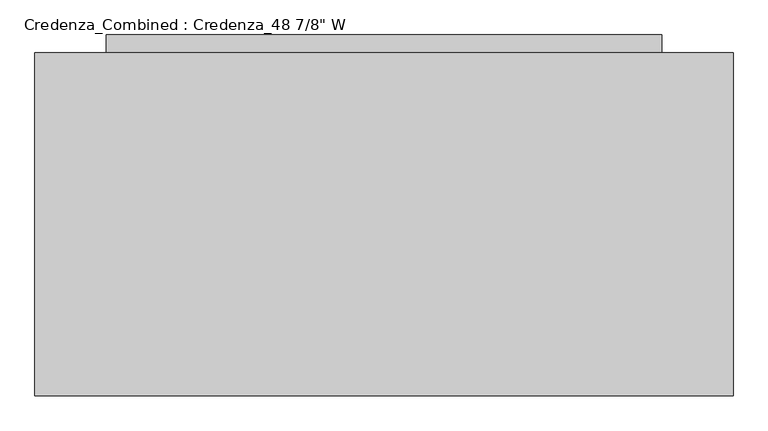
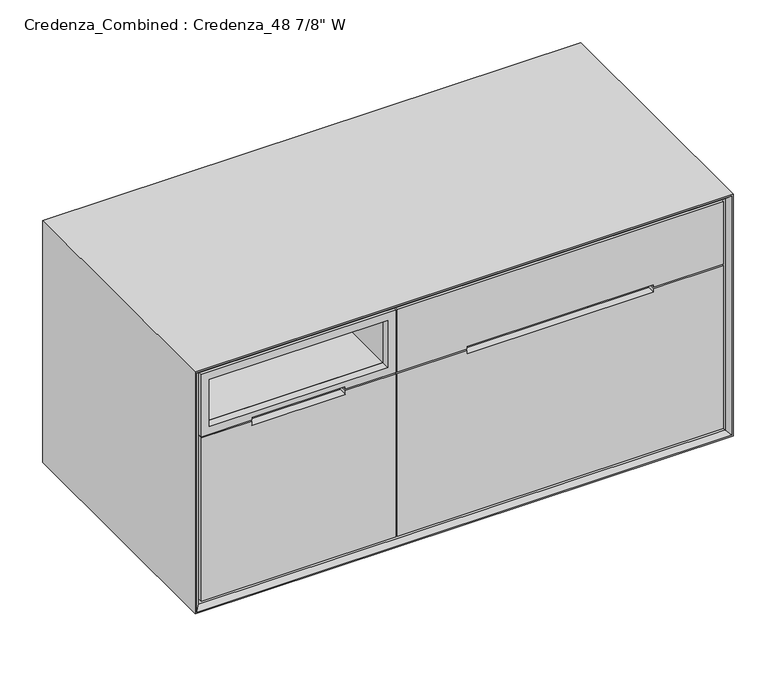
"""IFC4 building model written with IfcOpenShell, lengths in millimetres: furniture geometry."""

from ifc_helpers import new_model, si_unit, frame, origin, origin_with_axes, place, context, project, spatial, polyline, outline, extrude, faceted_brep, source, transform, mapped, element, save


def furniture_b63b5e25(model_context):
    return source(origin(), model_context, "Body", "SolidModel", [
        faceted_brep([(1206.5, 609.6, 478.63125), (488.95, 609.6, 478.63125), (488.95, 28.575, 478.63125), (1206.5, 28.575, 478.63125), (501.65, 596.9, 478.63125), (1192.2125, 596.9, 478.63125), (1192.2125, 41.275, 478.63125), (501.65, 41.275, 478.63125), (1206.5, 609.6, 105.56875), (488.95, 609.6, 105.56875), (488.95, 28.575, 105.56875), (1206.5, 28.575, 105.56875), (501.65, 596.9, 118.26875), (1192.2125, 596.9, 118.26875), (1192.2125, 41.275, 118.26875), (501.65, 41.275, 118.26875)], [[[0, 1, 2, 3], [4, 5, 6, 7]], [[1, 0, 8, 9]], [[2, 1, 9, 10]], [[3, 2, 10, 11]], [[8, 0, 3, 11]], [[5, 4, 12, 13]], [[6, 5, 13, 14]], [[7, 6, 14, 15]], [[4, 7, 15, 12]], [[13, 12, 15, 14]], [[8, 11, 10, 9]]]),
        faceted_brep([(1192.2125, 596.9, 519.90625), (501.65, 596.9, 519.90625), (501.65, 41.275, 519.90625), (1192.2125, 41.275, 519.90625), (1206.5, 609.6, 507.20625), (1206.5, 28.575, 507.20625), (488.95, 28.575, 507.20625), (488.95, 609.6, 507.20625), (488.95, 609.6, 634.20625), (1206.5, 609.6, 634.20625), (488.95, 28.575, 634.20625), (1206.5, 28.575, 634.20625), (501.65, 596.9, 634.20625), (1192.2125, 596.9, 634.20625), (1192.2125, 41.275, 634.20625), (501.65, 41.275, 634.20625)], [[[0, 1, 2, 3]], [[4, 5, 6, 7]], [[4, 7, 8, 9]], [[8, 7, 6, 10]], [[10, 6, 5, 11]], [[11, 5, 4, 9]], [[9, 8, 10, 11], [12, 13, 14, 15]], [[13, 12, 1, 0]], [[14, 13, 0, 3]], [[15, 14, 3, 2]], [[12, 15, 2, 1]]]),
        extrude(outline(polyline([(504.03125, 471.4875), (105.56875, 471.4875), (105.56875, 1223.9625), (504.03125, 1223.9625), (504.03125, 1063.625), (494.7030946, 1063.625), (494.7030946, 631.825), (504.03125, 631.825), (504.03125, 471.4875)])), frame((0.0, 9.525, 0.0), z_axis=(0.0, 1.0, 0.0), x_axis=(0.0, 0.0, 1.0)), (0.0, 0.0, 1.0), 19.05),
        extrude(outline(polyline([(659.60625, 1223.9625), (659.60625, 471.4875), (507.20625, 471.4875), (507.20625, 631.825), (513.3594054, 631.825), (513.3594054, 1063.625), (507.20625, 1063.625), (507.20625, 1223.9625), (659.60625, 1223.9625)])), frame((0.0, 9.525, 0.0), z_axis=(0.0, 1.0, 0.0), x_axis=(0.0, 0.0, 1.0)), (0.0, 0.0, 1.0), 19.05),
        extrude(outline(polyline([(1114.425, 609.6), (1114.425, 241.3), (127.0, 241.3), (127.0, 609.6), (1114.425, 609.6)])), origin_with_axes(), (0.0, 0.0, 1.0), 87.3125),
        extrude(outline(polyline([(1114.425, 641.35), (1114.425, 609.6), (127.0, 609.6), (127.0, 641.35), (1114.425, 641.35)])), origin_with_axes(), (0.0, 0.0, 1.0), 647.7),
        extrude(outline(polyline([(665.1625, 1228.725), (665.1625, 12.7), (100.0125, 12.7), (100.0125, 1228.725), (665.1625, 1228.725)]), holes=[polyline([(646.1125, 31.75), (646.1125, 1209.675), (119.0625, 1209.675), (119.0625, 31.75), (646.1125, 31.75)])]), frame((0.0, 31.75, 0.0), z_axis=(0.0, 1.0, 0.0), x_axis=(0.0, 0.0, 1.0)), (0.0, 0.0, 1.0), 577.85),
        faceted_brep([(1228.725, 9.525, 665.1625), (1228.725, 609.6, 665.1625), (1228.725, 609.6, 100.0125), (1228.725, 9.525, 100.0125), (1238.25, 0.0, 674.6875), (1238.25, 0.0, 90.4875), (1241.425, 609.6, 677.8625), (1241.425, 0.0, 677.8625), (1241.425, 0.0, 87.3125), (1241.425, 609.6, 87.3125), (12.7, 609.6, 100.0125), (12.7, 9.525, 100.0125), (3.175, 0.0, 90.4875), (0.0, 0.0, 87.3125), (0.0, 609.6, 87.3125), (12.7, 609.6, 665.1625), (12.7, 9.525, 665.1625), (3.175, 0.0, 674.6875), (0.0, 0.0, 677.8625), (0.0, 609.6, 677.8625)], [[[0, 1, 2, 3]], [[4, 0, 3, 5]], [[6, 7, 8, 9]], [[3, 2, 10, 11]], [[5, 3, 11, 12]], [[9, 8, 13, 14]], [[11, 10, 15, 16]], [[12, 11, 16, 17]], [[14, 13, 18, 19]], [[9, 14, 19, 6], [1, 15, 10, 2]], [[16, 15, 1, 0]], [[17, 16, 0, 4]], [[7, 18, 13, 8], [5, 12, 17, 4]], [[19, 18, 7, 6]]]),
        extrude(outline(polyline([(450.85, 609.6), (450.85, 28.575), (36.5125, 28.575), (36.5125, 609.6), (450.85, 609.6)]), holes=[polyline([(49.2125, 596.9), (49.2125, 41.275), (436.5625, 41.275), (436.5625, 596.9), (49.2125, 596.9)])]), frame((0.0, 0.0, 118.26875), z_axis=(0.0, 0.0, 1.0), x_axis=(1.0, 0.0, 0.0)), (0.0, 0.0, 1.0), 360.3625),
        extrude(outline(polyline([(642.14375, 450.85), (642.14375, 36.5125), (524.66875, 36.5125), (524.66875, 450.85), (642.14375, 450.85)]), holes=[polyline([(640.55625, 449.2625), (526.25625, 449.2625), (526.25625, 38.1), (640.55625, 38.1), (640.55625, 449.2625)])]), frame((0.0, 28.575, 0.0), z_axis=(0.0, 1.0, 0.0), x_axis=(0.0, 0.0, 1.0)), (0.0, 0.0, 1.0), 581.025),
        extrude(outline(polyline([(504.03125, 19.05), (105.56875, 19.05), (105.56875, 468.3125), (504.03125, 468.3125), (504.03125, 351.63125), (494.7030946, 351.63125), (494.7030946, 135.73125), (504.03125, 135.73125), (504.03125, 19.05)])), frame((0.0, 9.525, 0.0), z_axis=(0.0, 1.0, 0.0), x_axis=(0.0, 0.0, 1.0)), (0.0, 0.0, 1.0), 19.05),
        extrude(outline(polyline([(659.60625, 468.3125), (659.60625, 19.05), (507.20625, 19.05), (507.20625, 135.73125), (513.3594054, 135.73125), (513.3594054, 351.63125), (507.20625, 351.63125), (507.20625, 468.3125), (659.60625, 468.3125)]), holes=[polyline([(640.55625, 38.1), (640.55625, 449.2625), (526.25625, 449.2625), (526.25625, 38.1), (640.55625, 38.1)])]), frame((0.0, 9.525, 0.0), z_axis=(0.0, 1.0, 0.0), x_axis=(0.0, 0.0, 1.0)), (0.0, 0.0, 1.0), 19.05),
    ])


if __name__ == "__main__":
    model = new_model("IFC4")
    model_context = context("Model", 3, world=origin())
    ifc_project = project(units=[si_unit("LENGTHUNIT", "METRE", prefix="MILLI")], contexts=[model_context])
    site = spatial("IfcSite", under=ifc_project)
    building = spatial("IfcBuilding", under=site)
    placement = place(None, origin())
    furniture_shape = furniture_b63b5e25(model_context)
    element("IfcFurniture", 1, ObjectType="Credenza_Combined : Credenza_48 7/8\" W", at=placement, inside=building, context=model_context, shape_type="MappedRepresentation", body=[
        mapped(furniture_shape, transform((0.0, 0.0, 0.0), x_axis=(1.0, 0.0, 0.0), y_axis=(0.0, 1.0, 0.0), z_axis=(0.0, 0.0, 1.0))),
    ])
    save(model, "model.ifc")
